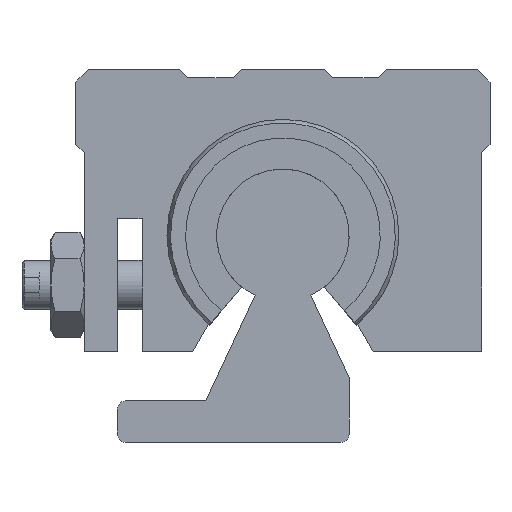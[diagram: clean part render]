
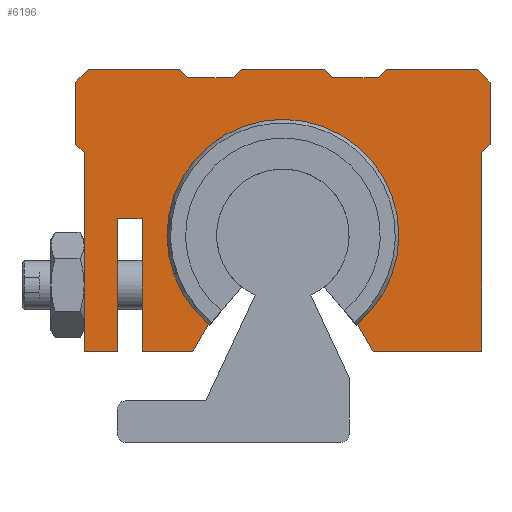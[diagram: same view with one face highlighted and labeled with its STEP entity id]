
A CAD part, left-side view. The second image highlights one B-rep face of the part: STEP entity #6196.
In plain terms, the highlighted planar face has unit normal (-1, 0, 0).
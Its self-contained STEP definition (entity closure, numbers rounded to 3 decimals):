
#4949=CARTESIAN_POINT('',(273.695,-9.0,14.276));
#4950=VERTEX_POINT('',#4949);
#4957=CARTESIAN_POINT('',(273.695,9.0,14.276));
#4958=VERTEX_POINT('',#4957);
#4959=CARTESIAN_POINT('',(273.695,0.0,25.0));
#4960=DIRECTION('',(-1.0,0.0,0.0));
#4961=DIRECTION('',(0.0,-1.0,0.0));
#4962=AXIS2_PLACEMENT_3D('',#4959,#4960,#4961);
#4963=CIRCLE('',#4962,14.);
#4964=EDGE_CURVE('',#4950,#4958,#4963,.T.);
#5056=CARTESIAN_POINT('',(273.695,-5.0,45.0));
#5057=VERTEX_POINT('',#5056);
#5058=CARTESIAN_POINT('',(273.695,-6.,44.0));
#5059=VERTEX_POINT('',#5058);
#5060=CARTESIAN_POINT('',(273.695,-5.0,45.0));
#5061=DIRECTION('',(0.0,-0.707,-0.707));
#5062=VECTOR('',#5061,1.414);
#5063=LINE('',#5060,#5062);
#5064=EDGE_CURVE('',#5057,#5059,#5063,.T.);
#5097=CARTESIAN_POINT('',(273.695,-11.5,44.0));
#5098=VERTEX_POINT('',#5097);
#5099=CARTESIAN_POINT('',(273.695,-6.,44.0));
#5100=DIRECTION('',(0.0,-1.0,0.0));
#5101=VECTOR('',#5100,5.5);
#5102=LINE('',#5099,#5101);
#5103=EDGE_CURVE('',#5059,#5098,#5102,.T.);
#5127=CARTESIAN_POINT('',(273.695,12.5,45.0));
#5128=VERTEX_POINT('',#5127);
#5129=CARTESIAN_POINT('',(273.695,11.5,44.0));
#5130=VERTEX_POINT('',#5129);
#5131=CARTESIAN_POINT('',(273.695,12.5,45.0));
#5132=DIRECTION('',(0.0,-0.707,-0.707));
#5133=VECTOR('',#5132,1.414);
#5134=LINE('',#5131,#5133);
#5135=EDGE_CURVE('',#5128,#5130,#5134,.T.);
#5168=CARTESIAN_POINT('',(273.695,6.,44.0));
#5169=VERTEX_POINT('',#5168);
#5170=CARTESIAN_POINT('',(273.695,11.5,44.0));
#5171=DIRECTION('',(0.0,-1.0,0.0));
#5172=VECTOR('',#5171,5.5);
#5173=LINE('',#5170,#5172);
#5174=EDGE_CURVE('',#5130,#5169,#5173,.T.);
#5198=CARTESIAN_POINT('',(273.695,5.0,45.0));
#5199=VERTEX_POINT('',#5198);
#5200=CARTESIAN_POINT('',(273.695,6.,44.0));
#5201=DIRECTION('',(0.0,-0.707,0.707));
#5202=VECTOR('',#5201,1.414);
#5203=LINE('',#5200,#5202);
#5204=EDGE_CURVE('',#5169,#5199,#5203,.T.);
#5229=CARTESIAN_POINT('',(273.695,-12.5,45.0));
#5230=VERTEX_POINT('',#5229);
#5231=CARTESIAN_POINT('',(273.695,-11.5,44.0));
#5232=DIRECTION('',(0.0,-0.707,0.707));
#5233=VECTOR('',#5232,1.414);
#5234=LINE('',#5231,#5233);
#5235=EDGE_CURVE('',#5098,#5230,#5234,.T.);
#5260=CARTESIAN_POINT('',(273.695,24.,35.0));
#5261=VERTEX_POINT('',#5260);
#5262=CARTESIAN_POINT('',(273.695,25.0,36.0));
#5263=VERTEX_POINT('',#5262);
#5264=CARTESIAN_POINT('',(273.695,24.,35.0));
#5265=DIRECTION('',(0.0,0.707,0.707));
#5266=VECTOR('',#5265,1.414);
#5267=LINE('',#5264,#5266);
#5268=EDGE_CURVE('',#5261,#5263,#5267,.T.);
#5300=CARTESIAN_POINT('',(273.695,-25.0,36.0));
#5301=VERTEX_POINT('',#5300);
#5302=CARTESIAN_POINT('',(273.695,-24.,35.0));
#5303=VERTEX_POINT('',#5302);
#5304=CARTESIAN_POINT('',(273.695,-25.0,36.0));
#5305=DIRECTION('',(0.0,0.707,-0.707));
#5306=VECTOR('',#5305,1.414);
#5307=LINE('',#5304,#5306);
#5308=EDGE_CURVE('',#5301,#5303,#5307,.T.);
#5341=CARTESIAN_POINT('',(273.695,-24.,11.));
#5342=VERTEX_POINT('',#5341);
#5343=CARTESIAN_POINT('',(273.695,-24.,35.0));
#5344=DIRECTION('',(0.0,0.0,-1.0));
#5345=VECTOR('',#5344,24.);
#5346=LINE('',#5343,#5345);
#5347=EDGE_CURVE('',#5303,#5342,#5346,.T.);
#5381=CARTESIAN_POINT('',(273.695,25.0,43.5));
#5382=VERTEX_POINT('',#5381);
#5389=CARTESIAN_POINT('',(273.695,23.5,45.));
#5390=VERTEX_POINT('',#5389);
#5391=CARTESIAN_POINT('',(273.695,25.0,43.5));
#5392=DIRECTION('',(0.0,-0.707,0.707));
#5393=VECTOR('',#5392,2.121);
#5394=LINE('',#5391,#5393);
#5395=EDGE_CURVE('',#5382,#5390,#5394,.T.);
#5419=CARTESIAN_POINT('',(273.695,25.0,36.0));
#5420=DIRECTION('',(0.0,0.0,1.0));
#5421=VECTOR('',#5420,7.5);
#5422=LINE('',#5419,#5421);
#5423=EDGE_CURVE('',#5263,#5382,#5422,.T.);
#5556=CARTESIAN_POINT('',(273.695,-23.5,45.));
#5557=VERTEX_POINT('',#5556);
#5564=CARTESIAN_POINT('',(273.695,-25.0,43.5));
#5565=VERTEX_POINT('',#5564);
#5566=CARTESIAN_POINT('',(273.695,-23.5,45.));
#5567=DIRECTION('',(0.0,-0.707,-0.707));
#5568=VECTOR('',#5567,2.121);
#5569=LINE('',#5566,#5568);
#5570=EDGE_CURVE('',#5557,#5565,#5569,.T.);
#5589=CARTESIAN_POINT('',(273.695,-12.5,45.0));
#5590=DIRECTION('',(0.0,-1.0,0.0));
#5591=VECTOR('',#5590,11.);
#5592=LINE('',#5589,#5591);
#5593=EDGE_CURVE('',#5230,#5557,#5592,.T.);
#5927=CARTESIAN_POINT('',(273.695,24.,11.));
#5928=VERTEX_POINT('',#5927);
#5935=CARTESIAN_POINT('',(273.695,24.,11.));
#5936=DIRECTION('',(0.0,0.0,1.0));
#5937=VECTOR('',#5936,24.);
#5938=LINE('',#5935,#5937);
#5939=EDGE_CURVE('',#5928,#5261,#5938,.T.);
#5958=CARTESIAN_POINT('',(273.695,20.,11.0));
#5959=VERTEX_POINT('',#5958);
#5966=CARTESIAN_POINT('',(273.695,20.,11.0));
#5967=DIRECTION('',(0.0,1.0,0.0));
#5968=VECTOR('',#5967,4.0);
#5969=LINE('',#5966,#5968);
#5970=EDGE_CURVE('',#5959,#5928,#5969,.T.);
#5982=CARTESIAN_POINT('',(273.695,20.,27.0));
#5983=VERTEX_POINT('',#5982);
#5990=CARTESIAN_POINT('',(273.695,20.,27.0));
#5991=DIRECTION('',(0.0,0.0,-1.0));
#5992=VECTOR('',#5991,16.0);
#5993=LINE('',#5990,#5992);
#5994=EDGE_CURVE('',#5983,#5959,#5993,.T.);
#6009=CARTESIAN_POINT('',(273.695,17.,27.0));
#6010=VERTEX_POINT('',#6009);
#6017=CARTESIAN_POINT('',(273.695,17.,27.0));
#6018=DIRECTION('',(0.0,1.0,0.0));
#6019=VECTOR('',#6018,3.0);
#6020=LINE('',#6017,#6019);
#6021=EDGE_CURVE('',#6010,#5983,#6020,.T.);
#6033=CARTESIAN_POINT('',(273.695,17.0,11.0));
#6034=VERTEX_POINT('',#6033);
#6041=CARTESIAN_POINT('',(273.695,17.0,11.0));
#6042=DIRECTION('',(0.0,0.0,1.0));
#6043=VECTOR('',#6042,16.0);
#6044=LINE('',#6041,#6043);
#6045=EDGE_CURVE('',#6034,#6010,#6044,.T.);
#6060=CARTESIAN_POINT('',(273.695,10.892,11.));
#6061=VERTEX_POINT('',#6060);
#6068=CARTESIAN_POINT('',(273.695,10.892,11.));
#6069=DIRECTION('',(0.0,1.0,0.0));
#6070=VECTOR('',#6069,6.108);
#6071=LINE('',#6068,#6070);
#6072=EDGE_CURVE('',#6061,#6034,#6071,.T.);
#6091=CARTESIAN_POINT('',(273.695,9.0,14.276));
#6092=DIRECTION('',(0.0,0.5,-0.866));
#6093=VECTOR('',#6092,3.783);
#6094=LINE('',#6091,#6093);
#6095=EDGE_CURVE('',#4958,#6061,#6094,.T.);
#6107=CARTESIAN_POINT('',(273.695,-10.892,11.));
#6108=VERTEX_POINT('',#6107);
#6115=CARTESIAN_POINT('',(273.695,-10.892,11.));
#6116=DIRECTION('',(0.0,0.5,0.866));
#6117=VECTOR('',#6116,3.783);
#6118=LINE('',#6115,#6117);
#6119=EDGE_CURVE('',#6108,#4950,#6118,.T.);
#6138=CARTESIAN_POINT('',(273.695,-24.,11.));
#6139=DIRECTION('',(0.0,1.0,0.0));
#6140=VECTOR('',#6139,13.108);
#6141=LINE('',#6138,#6140);
#6142=EDGE_CURVE('',#5342,#6108,#6141,.T.);
#6148=CARTESIAN_POINT('',(273.695,2.347,27.737));
#6149=DIRECTION('',(1.0,0.0,0.0));
#6150=DIRECTION('',(0.0,0.0,-1.0));
#6151=AXIS2_PLACEMENT_3D('',#6148,#6149,#6150);
#6152=PLANE('',#6151);
#6153=ORIENTED_EDGE('',*,*,#5395,.F.);
#6154=ORIENTED_EDGE('',*,*,#5423,.F.);
#6155=ORIENTED_EDGE('',*,*,#5268,.F.);
#6156=ORIENTED_EDGE('',*,*,#5939,.F.);
#6157=ORIENTED_EDGE('',*,*,#5970,.F.);
#6158=ORIENTED_EDGE('',*,*,#5994,.F.);
#6159=ORIENTED_EDGE('',*,*,#6021,.F.);
#6160=ORIENTED_EDGE('',*,*,#6045,.F.);
#6161=ORIENTED_EDGE('',*,*,#6072,.F.);
#6162=ORIENTED_EDGE('',*,*,#6095,.F.);
#6163=ORIENTED_EDGE('',*,*,#4964,.F.);
#6164=ORIENTED_EDGE('',*,*,#6119,.F.);
#6165=ORIENTED_EDGE('',*,*,#6142,.F.);
#6166=ORIENTED_EDGE('',*,*,#5347,.F.);
#6167=ORIENTED_EDGE('',*,*,#5308,.F.);
#6168=CARTESIAN_POINT('',(273.695,-25.0,43.5));
#6169=DIRECTION('',(0.0,0.0,-1.0));
#6170=VECTOR('',#6169,7.5);
#6171=LINE('',#6168,#6170);
#6172=EDGE_CURVE('',#5565,#5301,#6171,.T.);
#6173=ORIENTED_EDGE('',*,*,#6172,.F.);
#6174=ORIENTED_EDGE('',*,*,#5570,.F.);
#6175=ORIENTED_EDGE('',*,*,#5593,.F.);
#6176=ORIENTED_EDGE('',*,*,#5235,.F.);
#6177=ORIENTED_EDGE('',*,*,#5103,.F.);
#6178=ORIENTED_EDGE('',*,*,#5064,.F.);
#6179=CARTESIAN_POINT('',(273.695,5.0,45.0));
#6180=DIRECTION('',(0.0,-1.0,0.0));
#6181=VECTOR('',#6180,10.0);
#6182=LINE('',#6179,#6181);
#6183=EDGE_CURVE('',#5199,#5057,#6182,.T.);
#6184=ORIENTED_EDGE('',*,*,#6183,.F.);
#6185=ORIENTED_EDGE('',*,*,#5204,.F.);
#6186=ORIENTED_EDGE('',*,*,#5174,.F.);
#6187=ORIENTED_EDGE('',*,*,#5135,.F.);
#6188=CARTESIAN_POINT('',(273.695,23.5,45.));
#6189=DIRECTION('',(0.0,-1.0,0.0));
#6190=VECTOR('',#6189,11.0);
#6191=LINE('',#6188,#6190);
#6192=EDGE_CURVE('',#5390,#5128,#6191,.T.);
#6193=ORIENTED_EDGE('',*,*,#6192,.F.);
#6194=EDGE_LOOP('',(#6153,#6154,#6155,#6156,#6157,#6158,#6159,#6160,#6161,#6162,#6163,#6164,#6165,#6166,#6167,#6173,#6174,#6175,#6176,#6177,#6178,#6184,#6185,#6186,#6187,#6193));
#6195=FACE_OUTER_BOUND('',#6194,.T.);
#6196=ADVANCED_FACE('',(#6195),#6152,.F.);
